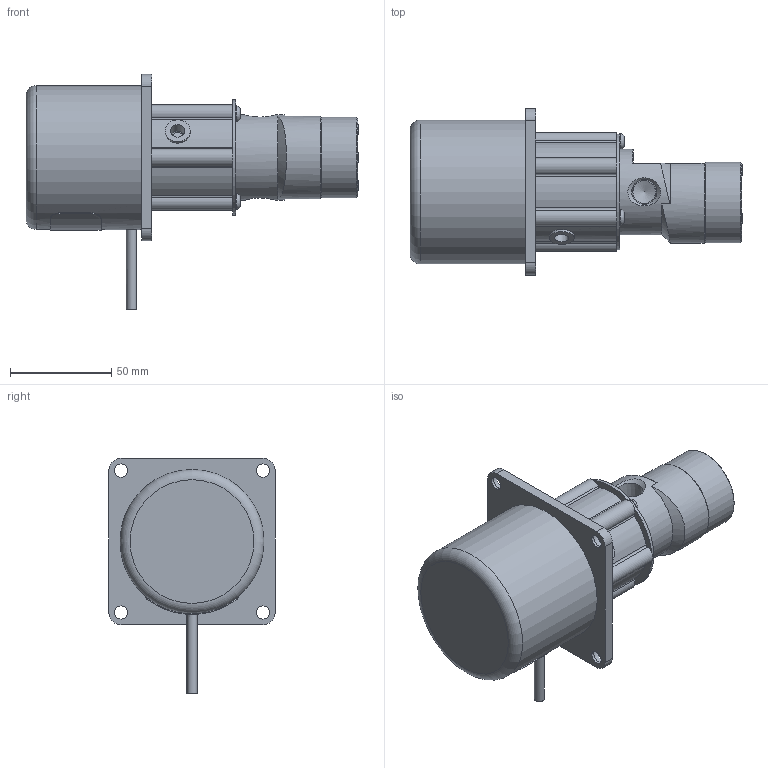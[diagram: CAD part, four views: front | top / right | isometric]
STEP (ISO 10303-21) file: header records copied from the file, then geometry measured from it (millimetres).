
FILE_DESCRIPTION (( 'STEP AP214' ), '1' );
FILE_NAME ('PD03-PM-0.STEP', '2017-03-01T22:11:11', ( '' ), ( '' ), 'SwSTEP 2.0', 'SolidWorks 2015', '' );
FILE_SCHEMA (( 'AUTOMOTIVE_DESIGN' ));
Length unit declared in the file: millimetre
Products named in the file (16): PD03-PM-0; PD03-MO-0_label; MB0055^PD03-MB-0; PD03-MB-0; PG0002; PD03-MA-0; PD03-SC-0; PD03-FL-0; PD03-CU-0; Copy of BB0002^PD03-BB-0; PD03-BB-0; PD03-BO-0; PD03-EP-0; PD03-SC-1; PD03-PU-0; PD03-SC-3
Assembly tree (24 placements, depth 5):
  PD03-PM-0
    PD03-MA-0
      PD03-MO-0_label
      PD03-MB-0
        MB0055^PD03-MB-0
      PG0002
    PD03-PU-0
      PD03-SC-0  x6
      PD03-FL-0
      PD03-CU-0
      PD03-BO-0
        PD03-BB-0
          Copy of BB0002^PD03-BB-0
      PD03-EP-0
      PD03-SC-1  x3
    PD03-SC-3  x3
Bounding box: 163.7 x 82 x 116 mm (x, y, z)
Volume: 371606 mm3; surface area: 71887.2 mm2
Topology: 19 solids, 19 shells, 249 faces, 554 edges, 365 vertices
Faces by surface type: cylinder 106, plane 103, cone 22, torus 18
Full cylindrical faces by diameter (mm): 3.2 x9, 3.3 x3, 4 x3, 4.2 x3, 5 x1, 5.5 x9, 5.989 x1, 6 x3, 6.5 x4, 7 x1, 7.6 x3, 8 x1, 8.5 x1, 10 x4, 11.2 x2, 12.5 x1, 27.1 x1, 27.14 x1, 28 x2, 29.8 x2, 31 x1, 39.75 x1, 42.25 x1, 57 x1, 71 x1
Entity records: 7015 total; most frequent: CARTESIAN_POINT 1579, DIRECTION 1072, ORIENTED_EDGE 794, AXIS2_PLACEMENT_3D 457, EDGE_CURVE 397, EDGE_LOOP 357, VERTEX_POINT 306, FACE_OUTER_BOUND 266
